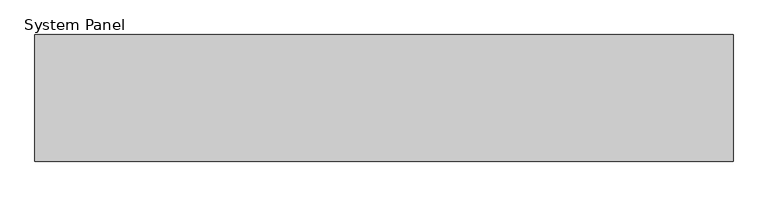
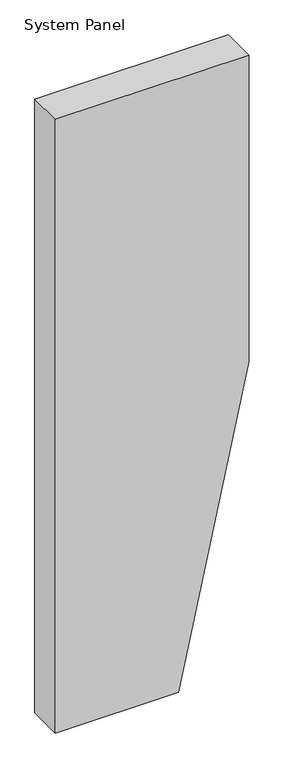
"""IFC4 building model written with IfcOpenShell, lengths in millimetres: plate geometry, System Panel : MetecnoPanel_200mm_Plain_Surfmist."""

from ifc_helpers import new_model, si_unit, frame, origin, place, context, project, spatial, polyline, outline, extrude, source, transform, mapped, element, save


def system_panel_1fb29ec4(model_context):
    return source(origin(), model_context, "Body", "SweptSolid", [
        extrude(outline(polyline([(0.0, -550.0), (0.0, 150.0), (1839.9852118, 550.0), (3679.9704237, 550.0), (3679.9704237, -550.0), (0.0, -550.0)])), frame((0.0, -200.0, 0.0), z_axis=(0.0, 1.0, 0.0), x_axis=(0.0, 0.0, 1.0)), (0.0, 0.0, 1.0), 200.0),
    ])


if __name__ == "__main__":
    model = new_model("IFC4")
    model_context = context("Model", 3, world=origin())
    ifc_project = project(units=[si_unit("LENGTHUNIT", "METRE", prefix="MILLI")], contexts=[model_context])
    site = spatial("IfcSite", under=ifc_project)
    building = spatial("IfcBuilding", under=site)
    placement = place(None, origin())
    system_panel_shape = system_panel_1fb29ec4(model_context)
    element("IfcPlate", 1, ObjectType="System Panel : MetecnoPanel_200mm_Plain_Surfmist", at=placement, inside=building, context=model_context, shape_type="MappedRepresentation", body=[
        mapped(system_panel_shape, transform((0.0, 0.0, 0.0), x_axis=(1.0, 0.0, 0.0), y_axis=(0.0, 1.0, 0.0), z_axis=(0.0, 0.0, 1.0))),
    ])
    save(model, "model.ifc")
